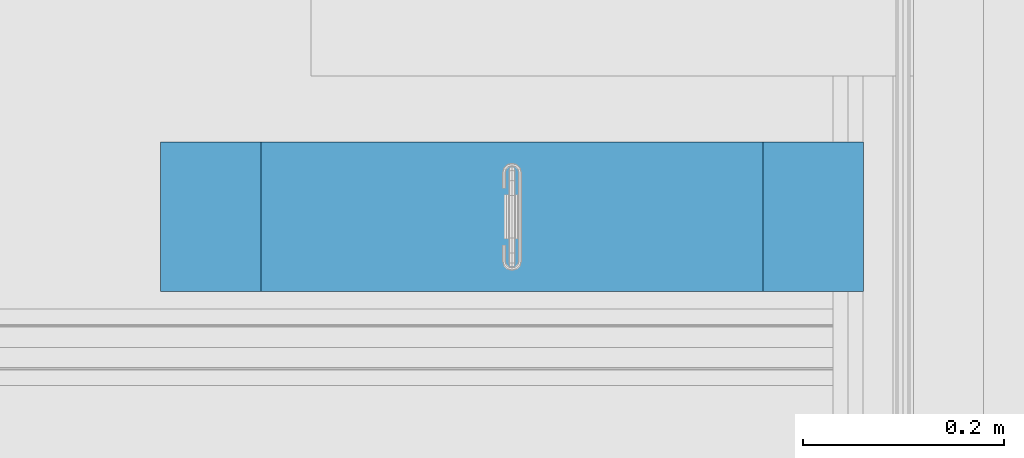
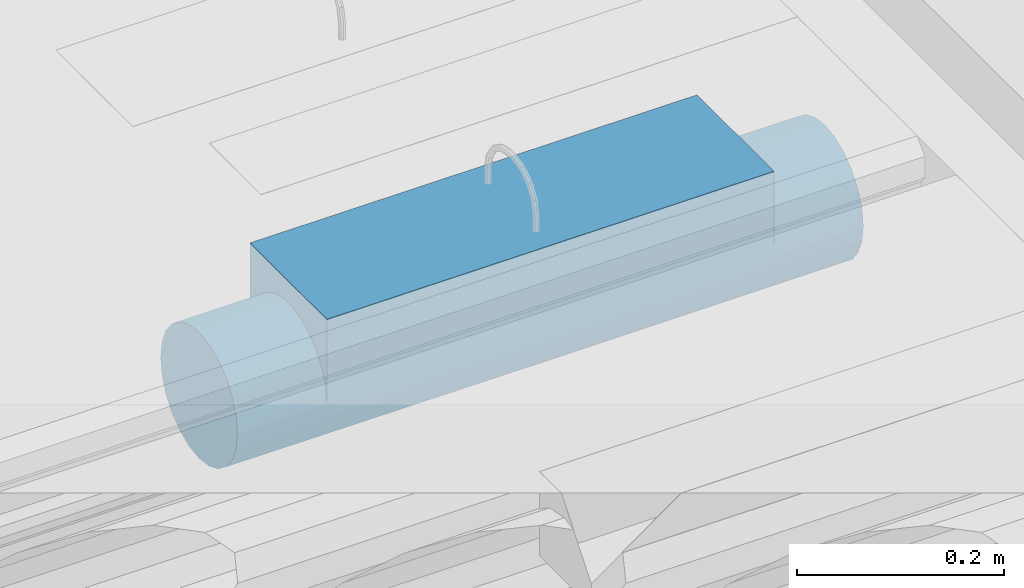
# One storey, part 164 of 230: 1 beam.
"""IFC4X3_ADD2 building model written with IfcOpenShell, lengths in millimetres."""

from ifc_helpers import new_model, si_unit, direction, origin_with_axes, place, context, subcontext, project, spatial, polygons, element, save


model = new_model("IFC4X3_ADD2")

# Units and contexts
model_context = context("Model", 3, precision=1e-05, world=origin_with_axes(), true_north=direction((0.0, 1.0)))
body_context = subcontext(model_context, "Body", "Model", "MODEL_VIEW")
ifc_project = project(units=[si_unit("LENGTHUNIT", "METRE", prefix="MILLI"), si_unit("AREAUNIT", "SQUARE_METRE"), si_unit("VOLUMEUNIT", "CUBIC_METRE"), si_unit("PLANEANGLEUNIT", "RADIAN"), si_unit("TIMEUNIT", "SECOND"), si_unit("MASSUNIT", "GRAM")], contexts=[model_context])

# Site, building, storey
site_placement = place(None, origin_with_axes())
site = spatial("IfcSite", under=ifc_project, at=site_placement, Name="Site", CompositionType="ELEMENT")
building_placement = place(site_placement, origin_with_axes())
building = spatial("IfcBuilding", under=site, at=building_placement, Name="IFC Building Story")
storey_placement = place(building_placement, origin_with_axes())
storey = spatial("IfcBuildingStorey", under=building, at=storey_placement, Name="ETAGE 00 (0)", Elevation=0.0)

# Beam
beam_placement = place(storey_placement, origin_with_axes())
element("IfcBeam", 1, at=beam_placement, inside=storey, Name="ES44", ObjectType="500*149", context=body_context, shape_type="Tessellation", body=[
    polygons([(48146.18900000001, -12981.96145555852, 4119.282009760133), (48046.18900000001, -12982.33514750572, 4117.829005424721), (48146.18900000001, -12984.49998149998, 4099.999990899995), (48146.18900000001, -12974.51887408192, 4137.249990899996), (48046.18900000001, -12975.96645637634, 4134.621865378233), (48046.18900000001, -12952.32080608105, 4161.312288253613), (48146.18900000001, -12962.67943669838, 4152.679446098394), (48146.18900000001, -12947.24998149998, 4164.518883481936), (48046.18900000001, -12936.41804623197, 4169.658700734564), (48146.18900000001, -12929.28200036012, 4171.961464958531), (48046.18900000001, -12965.76403330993, 4149.402627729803), (48046.18900000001, -12984.49998149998, 4099.999987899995), (48046.18900000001, -12918.97996440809, 4173.956801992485), (48146.18900000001, -12909.99998149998, 4174.499990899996), (48046.18900000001, -12901.01999859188, 4173.956801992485), (48146.18900000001, -12890.71796263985, 4171.961464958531), (48146.18900000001, -12872.74998149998, 4164.518883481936), (48046.18900000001, -12883.581916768, 4169.658700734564), (48146.18900000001, -12845.48108891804, 4137.249990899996), (48146.18900000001, -12838.03850744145, 4119.282009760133), (48046.18900000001, -12844.03350662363, 4134.621865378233), (48046.18900000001, -12854.23592969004, 4149.402627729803), (48146.18900000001, -12857.32052630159, 4152.679446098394), (48046.18900000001, -12867.67915691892, 4161.312288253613), (48046.18900000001, -12837.66481549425, 4117.82900542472), (48146.18900000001, -12835.49998149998, 4099.999990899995), (48046.18900000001, -12835.49998149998, 4099.999987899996), (47546.18900000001, -12835.49998149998, 4199.999987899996), (47546.18900000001, -12984.49998149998, 4199.999987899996), (48046.18900000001, -12984.49998149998, 4199.999987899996), (48046.18900000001, -12835.49998149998, 4199.999987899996), (47546.18900000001, -12835.49998149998, 4099.999987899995), (47546.18900000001, -12837.66481549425, 4117.82900542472), (47546.18900000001, -12844.03350662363, 4134.621865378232), (47546.18900000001, -12854.23592969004, 4149.402627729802), (47546.18900000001, -12867.67915691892, 4161.312288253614), (47546.18900000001, -12883.581916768, 4169.658700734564), (47546.18900000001, -12901.01999859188, 4173.956801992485), (47546.18900000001, -12918.97996440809, 4173.956801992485), (47546.18900000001, -12936.41804623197, 4169.658700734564), (47546.18900000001, -12952.32080608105, 4161.312288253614), (47546.18900000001, -12965.76403330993, 4149.402627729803), (47546.18900000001, -12975.96645637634, 4134.621865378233), (47546.18900000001, -12982.33514750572, 4117.829005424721), (47546.18900000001, -12984.49998149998, 4099.999987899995), (47446.18900000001, -12845.48108891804, 4062.749990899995), (47446.18900000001, -12857.32052630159, 4047.320535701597), (47446.18900000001, -12872.74998149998, 4035.481098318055), (47446.18900000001, -12890.71796263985, 4028.03851684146), (47446.18900000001, -12909.99998149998, 4025.499990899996), (47446.18900000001, -12929.28200036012, 4028.03851684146), (47446.18900000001, -12947.24998149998, 4035.481098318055), (47446.18900000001, -12962.67943669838, 4047.320535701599), (47446.18900000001, -12974.51887408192, 4062.749990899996), (47446.18900000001, -12981.96145555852, 4080.717972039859), (47446.18900000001, -12984.49998149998, 4099.999990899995), (47446.18900000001, -12981.96145555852, 4119.282009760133), (47446.18900000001, -12974.51887408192, 4137.249990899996), (47446.18900000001, -12962.67943669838, 4152.679446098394), (47446.18900000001, -12947.24998149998, 4164.518883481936), (47446.18900000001, -12929.28200036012, 4171.961464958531), (47446.18900000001, -12909.99998149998, 4174.499990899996), (47446.18900000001, -12890.71796263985, 4171.961464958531), (47446.18900000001, -12872.74998149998, 4164.518883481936), (47446.18900000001, -12857.32052630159, 4152.679446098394), (47446.18900000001, -12845.48108891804, 4137.249990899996), (47446.18900000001, -12838.03850744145, 4119.282009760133), (47446.18900000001, -12835.49998149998, 4099.999990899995), (47446.18900000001, -12838.03850744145, 4080.717972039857), (48146.18900000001, -12974.51887408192, 4062.749990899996), (48146.18900000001, -12962.67943669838, 4047.320535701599), (48146.18900000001, -12947.24998149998, 4035.481098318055), (48146.18900000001, -12929.28200036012, 4028.03851684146), (48146.18900000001, -12909.99998149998, 4025.499990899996), (48146.18900000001, -12890.71796263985, 4028.03851684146), (48146.18900000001, -12872.74998149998, 4035.481098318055), (48146.18900000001, -12857.32052630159, 4047.320535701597), (48146.18900000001, -12845.48108891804, 4062.749990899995), (48146.18900000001, -12838.03850744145, 4080.717972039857), (48146.18900000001, -12981.96145555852, 4080.717972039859), (47796.18900000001, -12841.17095632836, 4071.490075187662), (47796.18900000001, -12881.49006578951, 4031.170965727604), (47796.18900000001, -12864.64725503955, 4040.89516704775), (47796.18900000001, -12850.89515764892, 4054.647264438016), (47796.18900000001, -12900.27578018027, 4026.137348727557), (47796.18900000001, -12836.68332841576, 4086.774319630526), (47796.18900000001, -12919.72418282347, 4026.137348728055), (47796.18900000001, -12938.50989721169, 4031.170965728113), (47796.18900000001, -12983.31663458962, 4086.774319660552), (47796.18900000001, -12955.35270796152, 4040.895167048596), (47796.18900000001, -12969.10480535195, 4054.647264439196), (47796.18900000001, -12978.82900667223, 4071.490075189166)], [[[1, 2, 3]], [[4, 5, 1]], [[6, 7, 8]], [[9, 8, 10]], [[7, 11, 4]], [[1, 5, 2]], [[2, 12, 3]], [[6, 11, 7]], [[9, 6, 8]], [[10, 13, 9]], [[11, 5, 4]], [[10, 14, 13]], [[15, 14, 16]], [[17, 18, 16]], [[19, 20, 21]], [[22, 23, 19]], [[24, 17, 23]], [[25, 20, 26]], [[16, 18, 15]], [[17, 24, 18]], [[23, 22, 24]], [[19, 21, 22]], [[25, 21, 20]], [[26, 27, 25]], [[14, 15, 13]], [[28, 29, 30, 31]], [[44, 45, 29]], [[29, 43, 44]], [[29, 42, 43]], [[29, 41, 42]], [[29, 40, 41]], [[29, 39, 40]], [[29, 28, 38]], [[29, 38, 39]], [[28, 37, 38]], [[28, 36, 37]], [[28, 35, 36]], [[28, 34, 35]], [[28, 33, 34]], [[28, 32, 33]], [[30, 29, 45, 12]], [[25, 27, 31]], [[31, 21, 25]], [[31, 22, 21]], [[31, 24, 22]], [[31, 18, 24]], [[31, 15, 18]], [[31, 30, 13]], [[31, 13, 15]], [[30, 9, 13]], [[30, 6, 9]], [[30, 11, 6]], [[30, 5, 11]], [[30, 2, 5]], [[30, 12, 2]], [[28, 31, 27, 32]], [[46, 47, 48]], [[46, 48, 49]], [[46, 49, 50]], [[46, 50, 51]], [[46, 51, 52]], [[46, 52, 53]], [[46, 53, 54]], [[46, 54, 55]], [[46, 55, 56]], [[46, 56, 57]], [[46, 57, 58]], [[46, 58, 59]], [[46, 59, 60]], [[46, 60, 61]], [[46, 61, 62]], [[46, 62, 63]], [[46, 63, 64]], [[46, 64, 65]], [[46, 65, 66]], [[46, 66, 67]], [[46, 67, 68]], [[46, 68, 69]], [[70, 71, 72]], [[70, 72, 73]], [[70, 73, 74]], [[70, 74, 75]], [[70, 75, 76]], [[70, 76, 77]], [[70, 77, 78]], [[70, 78, 79]], [[70, 79, 26]], [[70, 26, 20]], [[70, 20, 19]], [[70, 19, 23]], [[70, 23, 17]], [[70, 17, 16]], [[70, 16, 14]], [[70, 14, 10]], [[70, 10, 8]], [[70, 8, 7]], [[70, 7, 4]], [[70, 4, 1]], [[70, 1, 3]], [[70, 3, 80]], [[43, 57, 44]], [[42, 58, 43]], [[40, 60, 41]], [[42, 41, 59]], [[61, 40, 39]], [[44, 56, 45]], [[44, 57, 56]], [[58, 42, 59]], [[41, 60, 59]], [[57, 43, 58]], [[40, 61, 60]], [[39, 62, 61]], [[37, 36, 64]], [[38, 37, 63]], [[35, 34, 66]], [[33, 32, 68]], [[34, 33, 67]], [[36, 35, 65]], [[37, 64, 63]], [[63, 62, 38]], [[64, 36, 65]], [[35, 66, 65]], [[67, 66, 34]], [[67, 33, 68]], [[38, 62, 39]], [[27, 26, 79]], [[78, 81, 79]], [[76, 75, 82]], [[83, 77, 76]], [[84, 78, 77]], [[85, 75, 74]], [[27, 86, 32]], [[86, 81, 69]], [[84, 83, 47]], [[69, 68, 32]], [[81, 86, 79]], [[83, 76, 82]], [[81, 84, 46]], [[46, 69, 81]], [[82, 85, 49]], [[47, 46, 84]], [[47, 83, 48]], [[85, 74, 87]], [[49, 48, 82]], [[84, 77, 83]], [[50, 49, 85]], [[83, 82, 48]], [[72, 88, 73]], [[12, 89, 80]], [[27, 79, 86]], [[71, 90, 72]], [[80, 3, 12]], [[87, 50, 85]], [[71, 70, 91]], [[80, 92, 70]], [[82, 75, 85]], [[88, 87, 73]], [[32, 86, 69]], [[89, 12, 45]], [[87, 88, 51]], [[88, 52, 51]], [[88, 90, 52]], [[52, 90, 53]], [[51, 50, 87]], [[90, 71, 91]], [[55, 54, 92]], [[53, 91, 54]], [[92, 80, 89]], [[56, 55, 45]], [[81, 78, 84]], [[90, 91, 53]], [[55, 92, 89]], [[91, 70, 92]], [[91, 92, 54]], [[87, 74, 73]], [[45, 55, 89]], [[88, 72, 90]]]),
])

save(model, "model.ifc")
